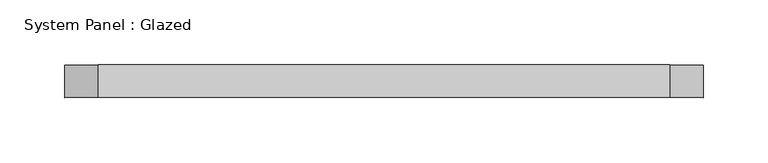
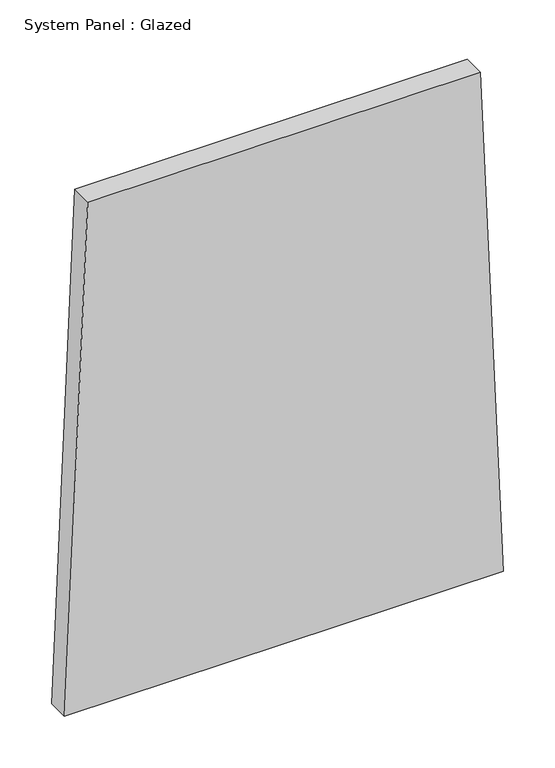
"""IFC4 building model written with IfcOpenShell, lengths in millimetres: plate geometry, System Panel : Glazed."""

import ifcopenshell
import ifcopenshell.guid

model = None  # the IFC model being written
_history = None  # IfcOwnerHistory: only IFC2X3 demands one
_inside = {}  # id of a spatial element -> (the spatial element, [elements in it])
_under = {}  # id of a project, library or spatial element -> (it, [spatial elements below it])
_declared = {}  # id of a project -> (the project, [libraries it declares])
_typed = {}  # id of a type object -> (the type object, [elements of that type])
_made_of = {}  # id of a material, layer set ... -> (it, [elements and type objects made of it])


def new_model(schema):
    """Start an empty IFC model of exactly this schema.

    Asked for "IFC4X3", IfcOpenShell would pick the latest addendum, in which some entities
    have other attributes; the version numbers below select the first issue.
    IFC2X3 requires an IfcOwnerHistory on every rooted entity: one is made here for all.
    """
    global model, _history
    if schema == "IFC4X3":
        model = ifcopenshell.file(schema_version=(4, 3, 0, 0))
    else:
        model = ifcopenshell.file(schema=schema)
    _inside.clear()
    _under.clear()
    _declared.clear()
    _typed.clear()
    _made_of.clear()
    _history = None
    if model.schema == "IFC2X3":
        org = make("IfcOrganization", Name="unknown")
        user = make(
            "IfcPersonAndOrganization",
            ThePerson=make("IfcPerson", FamilyName="unknown"),
            TheOrganization=org,
        )
        app = make(
            "IfcApplication",
            ApplicationDeveloper=org,
            Version="unknown",
            ApplicationFullName="unknown",
            ApplicationIdentifier="unknown",
        )
        _history = make(
            "IfcOwnerHistory",
            OwningUser=user,
            OwningApplication=app,
            ChangeAction="ADDED",
            CreationDate=0,
        )
    return model


def make(cls, **values):
    """One entity of the class cls with the attributes given. An attribute that is None is left unset."""
    return model.create_entity(
        cls, **{name: value for name, value in values.items() if value is not None}
    )


def rooted(cls, **values):
    """An entity with a GlobalId (a new one), such as an element, a storey or a relation."""
    return make(cls, GlobalId=ifcopenshell.guid.new(), OwnerHistory=_history, **values)


def si_unit(unit_type, name, prefix=None):
    """IfcSIUnit, for example si_unit("LENGTHUNIT", "METRE", prefix="MILLI")."""
    return make("IfcSIUnit", UnitType=unit_type, Prefix=prefix, Name=name)


def assignment(units):
    """IfcUnitAssignment: the units of a project."""
    return None if units is None else make("IfcUnitAssignment", Units=units)


def point(xyz):
    """IfcCartesianPoint."""
    return None if xyz is None else make("IfcCartesianPoint", Coordinates=xyz)


def direction(xyz):
    """IfcDirection."""
    return None if xyz is None else make("IfcDirection", DirectionRatios=xyz)


def frame(location, z_axis=None, x_axis=None):
    """IfcAxis2Placement3D, a coordinate frame: its origin and axes. An axis left out is left unset."""
    return make(
        "IfcAxis2Placement3D",
        Location=point(location),
        Axis=direction(z_axis),
        RefDirection=direction(x_axis),
    )


def origin():
    """The frame at (0, 0, 0) with its axes left unset."""
    return frame((0.0, 0.0, 0.0))


def place(relative_to, where):
    """IfcLocalPlacement: puts the frame where relative to a parent placement (None: the world)."""
    return make(
        "IfcLocalPlacement", PlacementRelTo=relative_to, RelativePlacement=where
    )


def context(
    kind, dimensions, precision=None, world=None, true_north=None, identifier=None
):
    """IfcGeometricRepresentationContext, for example the 3D "Model" context."""
    return make(
        "IfcGeometricRepresentationContext",
        ContextIdentifier=identifier,
        ContextType=kind,
        CoordinateSpaceDimension=dimensions,
        Precision=precision,
        WorldCoordinateSystem=world,
        TrueNorth=true_north,
    )


def project(units=None, contexts=None):
    """IfcProject with its units and contexts."""
    return rooted(
        "IfcProject",
        Name="project",
        RepresentationContexts=contexts,
        UnitsInContext=assignment(units),
    )


def spatial(cls, under=None, at=None, **own):
    """A site, building, storey or space (cls), placed at a placement, below another one or the project."""
    s = rooted(cls, ObjectPlacement=at, **own)
    if under is not None:
        _under.setdefault(under.id(), (under, []))[1].append(s)
    return s


def polyline(points):
    """IfcPolyline through the points."""
    return make("IfcPolyline", Points=[point(p) for p in points])


def outline(outer, holes=None, kind="AREA"):
    """IfcArbitraryClosedProfileDef: a profile drawn as a closed curve; with holes, ...WithVoids."""
    if holes is None:
        return make("IfcArbitraryClosedProfileDef", ProfileType=kind, OuterCurve=outer)
    return make(
        "IfcArbitraryProfileDefWithVoids",
        ProfileType=kind,
        OuterCurve=outer,
        InnerCurves=holes,
    )


def extrude(swept, where, along, depth):
    """IfcExtrudedAreaSolid: the profile swept, set in the frame where, extruded along a direction by depth."""
    return make(
        "IfcExtrudedAreaSolid",
        SweptArea=swept,
        Position=where,
        ExtrudedDirection=direction(along),
        Depth=depth,
    )


def shape(context_of_items, identifier, shape_type, items):
    """IfcShapeRepresentation: the items that make up one representation, for example the "Body"."""
    return make(
        "IfcShapeRepresentation",
        ContextOfItems=context_of_items,
        RepresentationIdentifier=identifier,
        RepresentationType=shape_type,
        Items=items,
    )


def source(mapping_origin, context_of_items, identifier, shape_type, items):
    """IfcRepresentationMap: a shape defined once, which mapped items show again and again."""
    return make(
        "IfcRepresentationMap",
        MappingOrigin=mapping_origin,
        MappedRepresentation=shape(context_of_items, identifier, shape_type, items),
    )


def transform(
    local_origin,
    x_axis=None,
    y_axis=None,
    z_axis=None,
    scale=None,
    scale2=None,
    scale3=None,
    uniform=True,
):
    """IfcCartesianTransformationOperator3D, or its non-uniform kind. x_axis, y_axis, z_axis: its Axis1, 2, 3."""
    if uniform:
        return make(
            "IfcCartesianTransformationOperator3D",
            Axis1=direction(x_axis),
            Axis2=direction(y_axis),
            LocalOrigin=point(local_origin),
            Scale=scale,
            Axis3=direction(z_axis),
        )
    return make(
        "IfcCartesianTransformationOperator3DnonUniform",
        Axis1=direction(x_axis),
        Axis2=direction(y_axis),
        LocalOrigin=point(local_origin),
        Scale=scale,
        Axis3=direction(z_axis),
        Scale2=scale2,
        Scale3=scale3,
    )


def mapped(mapping_source, mapping_target):
    """IfcMappedItem: shows the shape of a source again, moved by a transform."""
    return make(
        "IfcMappedItem", MappingSource=mapping_source, MappingTarget=mapping_target
    )


def made_of(thing, what):
    """Note that an element or type object is made of a material, layer set ...; save() writes the relation."""
    if what is not None:
        _made_of.setdefault(what.id(), (what, []))[1].append(thing)
    return thing


def element(
    cls,
    number,
    at=None,
    inside=None,
    cuts=None,
    type_object=None,
    material=None,
    context=None,
    identifier="Body",
    shape_type=None,
    held_by="IfcProductDefinitionShape",
    body=None,
    shapes=None,
    **own,
):
    """One element of the class cls, such as IfcWall. Its Tag is "e" and its number.

    at: its placement. inside: the storey or other place that contains it. cuts: it is an
    opening in that element (IfcRelVoidsElement). A single representation is given by context,
    identifier, shape_type and body (its items); several are given by shapes. held_by: the class
    of the entity that holds the representations. save() writes the other relations.
    """
    e = rooted(cls, Tag="e%d" % number, ObjectPlacement=at, **own)
    if body is not None:
        shapes = [shape(context, identifier, shape_type, body)]
    if shapes is not None:
        e.Representation = make(held_by, Representations=shapes)
    if inside is not None:
        _inside.setdefault(inside.id(), (inside, []))[1].append(e)
    if cuts is not None:
        rooted(
            "IfcRelVoidsElement", RelatingBuildingElement=cuts, RelatedOpeningElement=e
        )
    if type_object is not None:
        _typed.setdefault(type_object.id(), (type_object, []))[1].append(e)
    return made_of(e, material)


def aggregate(whole, parts):
    """IfcRelAggregates: a whole, such as a stair, and the parts it consists of."""
    return rooted("IfcRelAggregates", RelatingObject=whole, RelatedObjects=parts)


def save(model, path):
    """Write the relations noted so far, then the file.

    IfcRelAggregates (storeys below a building ...), IfcRelContainedInSpatialStructure (elements
    in a storey), IfcRelDefinesByType, IfcRelAssociatesMaterial and IfcRelDeclares: one each for
    every whole, place, type object, material and project.
    """
    for whole, parts in _under.values():
        aggregate(whole, parts)
    for where, things in _inside.values():
        rooted(
            "IfcRelContainedInSpatialStructure",
            RelatedElements=things,
            RelatingStructure=where,
        )
    for kind, things in _typed.values():
        rooted("IfcRelDefinesByType", RelatedObjects=things, RelatingType=kind)
    for what, things in _made_of.values():
        rooted("IfcRelAssociatesMaterial", RelatedObjects=things, RelatingMaterial=what)
    for by, libraries in _declared.values():
        rooted("IfcRelDeclares", RelatingContext=by, RelatedDefinitions=libraries)
    model.write(path)


def system_panel_glazed_dedcf809(model_context):
    return source(origin(), model_context, "Body", "SweptSolid", [
        extrude(outline(polyline([(0.0, -245.4267508), (0.0, 245.4267508), (599.4470395, 219.6731726), (599.4470395, -219.6731726), (0.0, -245.4267508)])), frame((0.0, 24.5, 0.0), z_axis=(0.0, 1.0, 0.0), x_axis=(0.0, 0.0, 1.0)), (0.0, 0.0, 1.0), 25.0),
    ])


if __name__ == "__main__":
    model = new_model("IFC4")
    model_context = context("Model", 3, world=origin())
    ifc_project = project(units=[si_unit("LENGTHUNIT", "METRE", prefix="MILLI")], contexts=[model_context])
    site = spatial("IfcSite", under=ifc_project)
    building = spatial("IfcBuilding", under=site)
    placement = place(None, origin())
    system_panel_glazed_shape = system_panel_glazed_dedcf809(model_context)
    element("IfcPlate", 1, ObjectType="System Panel : Glazed", at=placement, inside=building, context=model_context, shape_type="MappedRepresentation", body=[
        mapped(system_panel_glazed_shape, transform((0.0, 0.0, 0.0), x_axis=(1.0, 0.0, 0.0), y_axis=(0.0, 1.0, 0.0), z_axis=(0.0, 0.0, 1.0))),
    ])
    save(model, "model.ifc")
